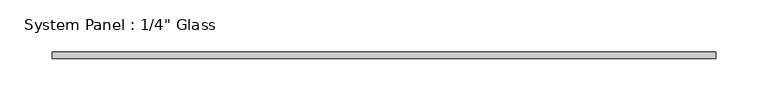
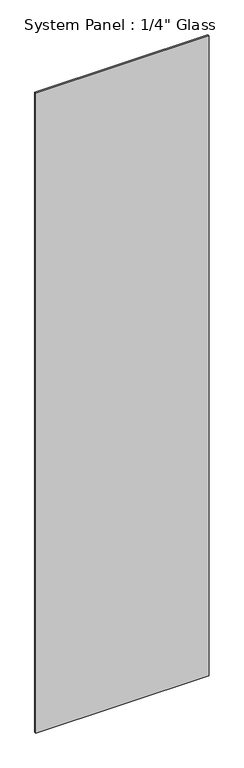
"""IFC4 building model written with IfcOpenShell, lengths in millimetres: plate geometry."""

from ifc_helpers import new_model, si_unit, origin, origin_with_axes, place, context, project, spatial, polyline, outline, extrude, source, transform, mapped, element, save


def plate_1cd28498(model_context):
    return source(origin(), model_context, "Body", "SweptSolid", [
        extrude(outline(polyline([(319.174085, -3.175), (-319.174085, -3.175), (-319.174085, 3.175), (319.174085, 3.175), (319.174085, -3.175)])), origin_with_axes(), (0.0, 0.0, 1.0), 2489.2),
    ])


if __name__ == "__main__":
    model = new_model("IFC4")
    model_context = context("Model", 3, world=origin())
    ifc_project = project(units=[si_unit("LENGTHUNIT", "METRE", prefix="MILLI")], contexts=[model_context])
    site = spatial("IfcSite", under=ifc_project)
    building = spatial("IfcBuilding", under=site)
    placement = place(None, origin())
    plate_shape = plate_1cd28498(model_context)
    element("IfcPlate", 1, ObjectType="System Panel : 1/4\" Glass", at=placement, inside=building, context=model_context, shape_type="MappedRepresentation", body=[
        mapped(plate_shape, transform((0.0, 0.0, 0.0), x_axis=(1.0, 0.0, 0.0), y_axis=(0.0, 1.0, 0.0), z_axis=(0.0, 0.0, 1.0))),
    ])
    save(model, "model.ifc")
